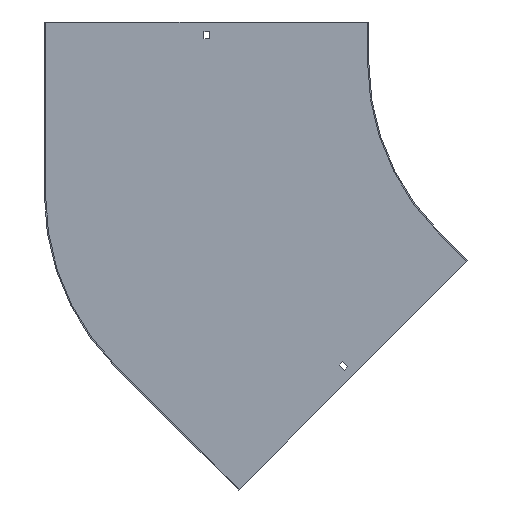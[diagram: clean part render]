
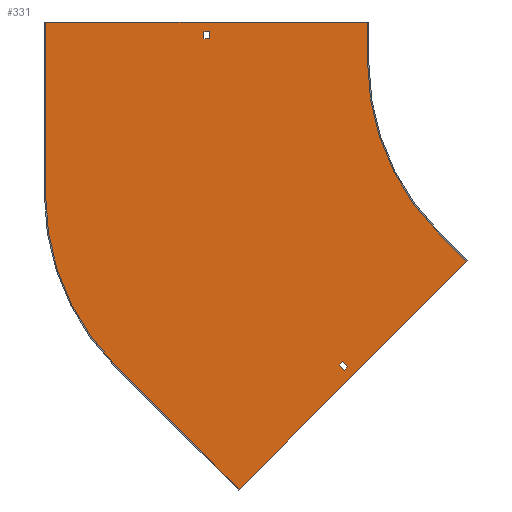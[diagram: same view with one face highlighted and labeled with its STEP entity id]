
A CAD part, front view. The second image highlights one B-rep face of the part: STEP entity #331.
In plain terms, the highlighted planar face has unit normal (0, -1, 0).
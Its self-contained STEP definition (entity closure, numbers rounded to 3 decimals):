
#7 = CARTESIAN_POINT ( 'NONE',  ( -700., -1.5, -165.685 ) ) ;
#13 = FACE_BOUND ( 'NONE', #394, .T. ) ;
#15 = LINE ( 'NONE', #498, #721 ) ;
#19 = CARTESIAN_POINT ( 'NONE',  ( -400., -1.5, -165.685 ) ) ;
#44 = AXIS2_PLACEMENT_3D ( 'NONE', #569, #379, #573 ) ;
#45 = CARTESIAN_POINT ( 'NONE',  ( -324.385, -1.5, -378.125 ) ) ;
#46 = ORIENTED_EDGE ( 'NONE', *, *, #848, .F. ) ;
#50 = DIRECTION ( 'NONE',  ( -0.707, 0., 0.707 ) ) ;
#54 = VERTEX_POINT ( 'NONE', #56 ) ;
#56 = CARTESIAN_POINT ( 'NONE',  ( -700., -1.5, -165.685 ) ) ;
#58 = ORIENTED_EDGE ( 'NONE', *, *, #210, .F. ) ;
#66 = CARTESIAN_POINT ( 'NONE',  ( -459.619, -1.5, -530.33 ) ) ;
#67 = ORIENTED_EDGE ( 'NONE', *, *, #457, .F. ) ;
#78 = VERTEX_POINT ( 'NONE', #777 ) ;
#81 = CIRCLE ( 'NONE', #44, 300. ) ;
#85 = DIRECTION ( 'NONE',  ( 0., 0., -1. ) ) ;
#86 = VECTOR ( 'NONE', #50, 1000. ) ;
#101 = LINE ( 'NONE', #314, #345 ) ;
#106 = DIRECTION ( 'NONE',  ( 0.707, 0., -0.707 ) ) ;
#126 = VECTOR ( 'NONE', #454, 1000. ) ;
#156 = ORIENTED_EDGE ( 'NONE', *, *, #474, .F. ) ;
#158 = DIRECTION ( 'NONE',  ( 0.707, 0., 0.707 ) ) ;
#166 = AXIS2_PLACEMENT_3D ( 'NONE', #557, #488, #444 ) ;
#168 = ORIENTED_EDGE ( 'NONE', *, *, #587, .F. ) ;
#174 = CARTESIAN_POINT ( 'NONE',  ( -355.851, -1.5, -355.851 ) ) ;
#175 = VERTEX_POINT ( 'NONE', #574 ) ;
#188 = LINE ( 'NONE', #520, #126 ) ;
#196 = EDGE_LOOP ( 'NONE', ( #445, #46, #327, #67 ) ) ;
#205 = DIRECTION ( 'NONE',  ( -0.707, 0., -0.707 ) ) ;
#210 = EDGE_CURVE ( 'NONE', #54, #260, #293, .T. ) ;
#219 = VECTOR ( 'NONE', #235, 1000. ) ;
#220 = LINE ( 'NONE', #793, #563 ) ;
#222 = LINE ( 'NONE', #615, #423 ) ;
#235 = DIRECTION ( 'NONE',  ( 1., 0., 0. ) ) ;
#240 = LINE ( 'NONE', #383, #302 ) ;
#252 = LINE ( 'NONE', #174, #277 ) ;
#254 = ORIENTED_EDGE ( 'NONE', *, *, #535, .F. ) ;
#258 = ORIENTED_EDGE ( 'NONE', *, *, #508, .T. ) ;
#260 = VERTEX_POINT ( 'NONE', #301 ) ;
#267 = EDGE_CURVE ( 'NONE', #635, #175, #222, .T. ) ;
#271 = LINE ( 'NONE', #66, #86 ) ;
#273 = VERTEX_POINT ( 'NONE', #727 ) ;
#277 = VECTOR ( 'NONE', #106, 1000. ) ;
#288 = ORIENTED_EDGE ( 'NONE', *, *, #541, .T. ) ;
#290 = CARTESIAN_POINT ( 'NONE',  ( -496.75, -1.5, 29. ) ) ;
#291 = PLANE ( 'NONE',  #166 ) ;
#293 = LINE ( 'NONE', #7, #775 ) ;
#294 = VERTEX_POINT ( 'NONE', #622 ) ;
#301 = CARTESIAN_POINT ( 'NONE',  ( -700., -1.5, 50. ) ) ;
#302 = VECTOR ( 'NONE', #753, 1000. ) ;
#310 = VECTOR ( 'NONE', #334, 1000. ) ;
#312 = EDGE_CURVE ( 'NONE', #401, #437, #666, .T. ) ;
#314 = CARTESIAN_POINT ( 'NONE',  ( -351.255, -1.5, -351.255 ) ) ;
#326 = DIRECTION ( 'NONE',  ( 0.707, 0., -0.707 ) ) ;
#327 = ORIENTED_EDGE ( 'NONE', *, *, #710, .F. ) ;
#331 = ADVANCED_FACE ( 'NONE', ( #415, #816, #13 ), #291, .T. ) ;
#332 = VERTEX_POINT ( 'NONE', #823 ) ;
#334 = DIRECTION ( 'NONE',  ( 0., 0., -1. ) ) ;
#337 = VECTOR ( 'NONE', #85, 1000. ) ;
#340 = EDGE_CURVE ( 'NONE', #437, #273, #81, .T. ) ;
#345 = VECTOR ( 'NONE', #577, 1000. ) ;
#346 = EDGE_CURVE ( 'NONE', #689, #294, #101, .T. ) ;
#354 = DIRECTION ( 'NONE',  ( -1., 0., 0. ) ) ;
#367 = EDGE_CURVE ( 'NONE', #260, #401, #240, .T. ) ;
#366 = CARTESIAN_POINT ( 'NONE',  ( -176.777, -1.5, -247.487 ) ) ;
#379 = DIRECTION ( 'NONE',  ( 0., -1., 0. ) ) ;
#382 = DIRECTION ( 'NONE',  ( 0., 1., 0. ) ) ;
#383 = CARTESIAN_POINT ( 'NONE',  ( -701.5, -1.5, 50. ) ) ;
#392 = ORIENTED_EDGE ( 'NONE', *, *, #367, .F. ) ;
#394 = EDGE_LOOP ( 'NONE', ( #258, #288, #644, #501 ) ) ;
#401 = VERTEX_POINT ( 'NONE', #759 ) ;
#404 = ORIENTED_EDGE ( 'NONE', *, *, #340, .F. ) ;
#405 = AXIS2_PLACEMENT_3D ( 'NONE', #19, #382, #561 ) ;
#410 = VECTOR ( 'NONE', #326, 1000. ) ;
#413 = CARTESIAN_POINT ( 'NONE',  ( -335.345, -1.5, -376.358 ) ) ;
#415 = FACE_BOUND ( 'NONE', #196, .T. ) ;
#418 = VERTEX_POINT ( 'NONE', #628 ) ;
#423 = VECTOR ( 'NONE', #205, 1000. ) ;
#437 = VERTEX_POINT ( 'NONE', #862 ) ;
#444 = DIRECTION ( 'NONE',  ( 0., 0., -1. ) ) ;
#445 = ORIENTED_EDGE ( 'NONE', *, *, #346, .F. ) ;
#448 = LINE ( 'NONE', #842, #310 ) ;
#449 = VERTEX_POINT ( 'NONE', #413 ) ;
#454 = DIRECTION ( 'NONE',  ( 0., 0., 1. ) ) ;
#457 = EDGE_CURVE ( 'NONE', #294, #449, #220, .T. ) ;
#466 = CARTESIAN_POINT ( 'NONE',  ( -212.132, -1.5, -212.132 ) ) ;
#474 = EDGE_CURVE ( 'NONE', #332, #54, #712, .T. ) ;
#483 = CARTESIAN_POINT ( 'NONE',  ( 26.87, -1.5, -26.87 ) ) ;
#488 = DIRECTION ( 'NONE',  ( 0., -1., 0. ) ) ;
#497 = ORIENTED_EDGE ( 'NONE', *, *, #267, .F. ) ;
#498 = CARTESIAN_POINT ( 'NONE',  ( 0., -1.5, 29. ) ) ;
#501 = ORIENTED_EDGE ( 'NONE', *, *, #756, .T. ) ;
#508 = EDGE_CURVE ( 'NONE', #530, #78, #621, .T. ) ;
#520 = CARTESIAN_POINT ( 'NONE',  ( -503.25, -1.5, 0. ) ) ;
#528 = LINE ( 'NONE', #466, #410 ) ;
#530 = VERTEX_POINT ( 'NONE', #781 ) ;
#535 = EDGE_CURVE ( 'NONE', #175, #332, #271, .T. ) ;
#538 = DIRECTION ( 'NONE',  ( -0.707, 0., -0.707 ) ) ;
#541 = EDGE_CURVE ( 'NONE', #78, #791, #448, .T. ) ;
#549 = VERTEX_POINT ( 'NONE', #648 ) ;
#557 = CARTESIAN_POINT ( 'NONE',  ( 0., -1.5, 0. ) ) ;
#561 = DIRECTION ( 'NONE',  ( 0., 0., -1. ) ) ;
#563 = VECTOR ( 'NONE', #538, 1000. ) ;
#569 = CARTESIAN_POINT ( 'NONE',  ( 0., -1.5, 0. ) ) ;
#573 = DIRECTION ( 'NONE',  ( 0., 0., -1. ) ) ;
#574 = CARTESIAN_POINT ( 'NONE',  ( -459.619, -1.5, -530.33 ) ) ;
#577 = DIRECTION ( 'NONE',  ( -0.707, 0., 0.707 ) ) ;
#587 = EDGE_CURVE ( 'NONE', #273, #635, #528, .T. ) ;
#615 = CARTESIAN_POINT ( 'NONE',  ( -175.716, -1.5, -246.427 ) ) ;
#621 = LINE ( 'NONE', #746, #219 ) ;
#622 = CARTESIAN_POINT ( 'NONE',  ( -330.749, -1.5, -371.761 ) ) ;
#628 = CARTESIAN_POINT ( 'NONE',  ( -503.25, -1.5, 29. ) ) ;
#635 = VERTEX_POINT ( 'NONE', #366 ) ;
#644 = ORIENTED_EDGE ( 'NONE', *, *, #814, .T. ) ;
#648 = CARTESIAN_POINT ( 'NONE',  ( -328.981, -1.5, -382.722 ) ) ;
#666 = LINE ( 'NONE', #680, #337 ) ;
#680 = CARTESIAN_POINT ( 'NONE',  ( -300., -1.5, 50. ) ) ;
#689 = VERTEX_POINT ( 'NONE', #45 ) ;
#710 = EDGE_CURVE ( 'NONE', #449, #549, #252, .T. ) ;
#711 = EDGE_LOOP ( 'NONE', ( #392, #58, #156, #254, #497, #168, #404, #728 ) ) ;
#712 = CIRCLE ( 'NONE', #405, 300. ) ;
#721 = VECTOR ( 'NONE', #354, 1000. ) ;
#727 = CARTESIAN_POINT ( 'NONE',  ( -212.132, -1.5, -212.132 ) ) ;
#728 = ORIENTED_EDGE ( 'NONE', *, *, #312, .F. ) ;
#746 = CARTESIAN_POINT ( 'NONE',  ( 0., -1.5, 38. ) ) ;
#748 = LINE ( 'NONE', #483, #843 ) ;
#753 = DIRECTION ( 'NONE',  ( 1., 0., 0. ) ) ;
#756 = EDGE_CURVE ( 'NONE', #418, #530, #188, .T. ) ;
#759 = CARTESIAN_POINT ( 'NONE',  ( -300., -1.5, 50. ) ) ;
#775 = VECTOR ( 'NONE', #802, 1000. ) ;
#777 = CARTESIAN_POINT ( 'NONE',  ( -496.75, -1.5, 38. ) ) ;
#781 = CARTESIAN_POINT ( 'NONE',  ( -503.25, -1.5, 38. ) ) ;
#791 = VERTEX_POINT ( 'NONE', #290 ) ;
#793 = CARTESIAN_POINT ( 'NONE',  ( 20.506, -1.5, -20.506 ) ) ;
#802 = DIRECTION ( 'NONE',  ( 0., 0., 1. ) ) ;
#814 = EDGE_CURVE ( 'NONE', #791, #418, #15, .T. ) ;
#816 = FACE_OUTER_BOUND ( 'NONE', #711, .T. ) ;
#823 = CARTESIAN_POINT ( 'NONE',  ( -612.132, -1.5, -377.817 ) ) ;
#842 = CARTESIAN_POINT ( 'NONE',  ( -496.75, -1.5, 0. ) ) ;
#843 = VECTOR ( 'NONE', #158, 1000. ) ;
#848 = EDGE_CURVE ( 'NONE', #549, #689, #748, .T. ) ;
#862 = CARTESIAN_POINT ( 'NONE',  ( -300., -1.5, 0. ) ) ;
